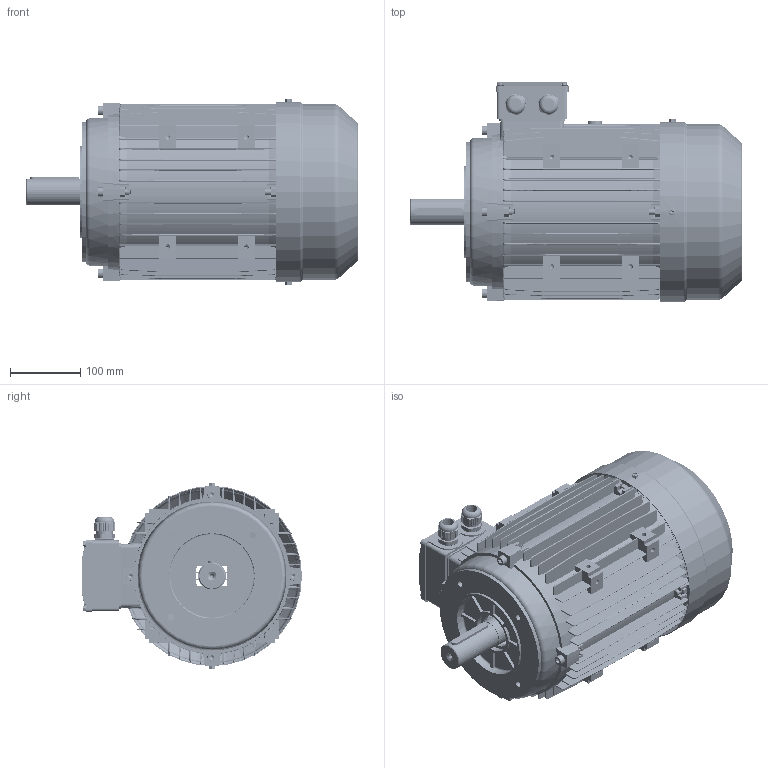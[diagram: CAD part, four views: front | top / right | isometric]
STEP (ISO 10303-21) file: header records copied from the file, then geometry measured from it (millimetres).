
FILE_DESCRIPTION (( 'STEP AP203' ), '1' );
FILE_NAME ('MSL132M assembly B14.STEP', '2017-11-26T10:14:01', ( 'user' ), ( 'china' ), 'SwSTEP 2.0', 'SolidWorks 2016', '' );
FILE_SCHEMA (( 'CONFIG_CONTROL_DESIGN' ));
Length unit declared in the file: millimetre
Products named in the file (16): MSL132M assembly B14; M132-Shaft drive end_DNF; GB-T 41-2000 M8; GB-T 70.1-2000 M8_40; GB-T 5780-2000 M8_040; MS132諉盄碟釱(苤)_2Holes; M132儂褲_M; MS132諉盄碟裔(苤); M132瑞欶_117; MS132 綴裔瑞欶郪磁; GB-T 29.2-1988 M4鞠褒坋趼湍菜_05; M132傷裔B3_NonDrive; M112-132諉盄碟(苤); GB-T 29.2-1988 M5鞠褒坋趼湍菜_10; M25 cable gland; M132傷裔B14 
Assembly tree (34 placements, depth 3):
  MSL132M assembly B14
    M132儂褲_M
    M132-Shaft drive end_DNF
    MS132 綴裔瑞欶郪磁
      M132傷裔B3_NonDrive
      M132瑞欶_117
      GB-T 29.2-1988 M5鞠褒坋趼湍菜_10  x3
    GB-T 41-2000 M8  x8
    GB-T 70.1-2000 M8_40  x4
    M112-132諉盄碟(苤)
      MS132諉盄碟釱(苤)_2Holes
      MS132諉盄碟裔(苤)
      GB-T 29.2-1988 M4鞠褒坋趼湍菜_05  x4
      M25 cable gland  x2
    GB-T 5780-2000 M8_040  x4
    M132傷裔B14 
Bounding box: 473 x 313.2 x 264.6 mm (x, y, z)
Volume: 2511768.1 mm3; surface area: 1373199.8 mm2
Topology: 34 solids, 34 shells, 5425 faces, 14215 edges, 8895 vertices
Faces by surface type: plane 2277, cylinder 1350, cone 1064, bspline 604, torus 126, sphere 4
Entity records: 155739 total; most frequent: CARTESIAN_POINT 62330, ORIENTED_EDGE 20336, DIRECTION 17037, EDGE_CURVE 10168, VERTEX_POINT 6495, LINE 5875, VECTOR 5875, AXIS2_PLACEMENT_3D 5581
